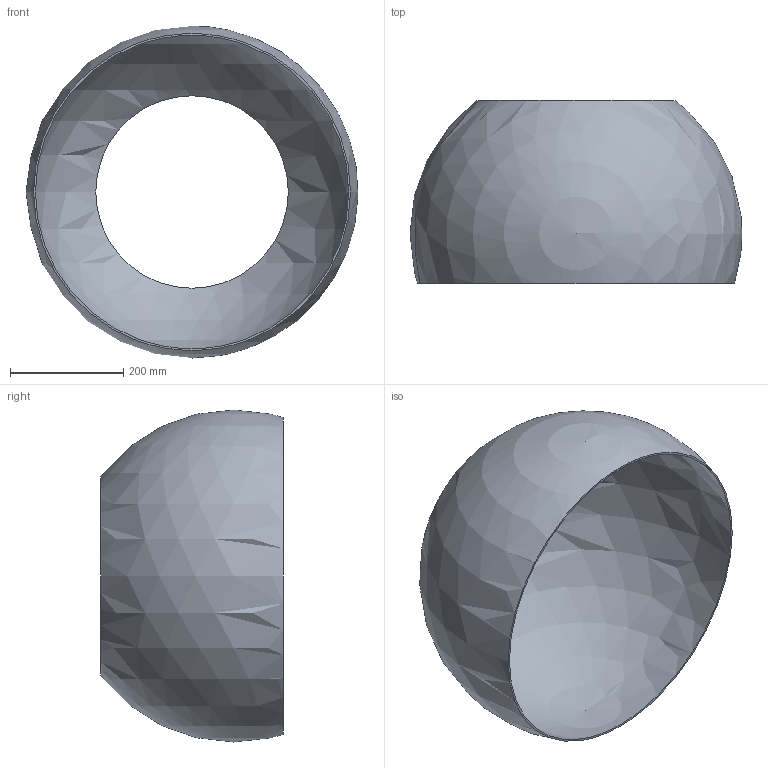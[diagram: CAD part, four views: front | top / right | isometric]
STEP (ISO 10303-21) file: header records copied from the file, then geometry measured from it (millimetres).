
FILE_DESCRIPTION(('Open CASCADE Model'),'2;1');
FILE_NAME('Open CASCADE Shape Model','2026-10-18T22:57:33',('Author'),( 'Open CASCADE'),'Open CASCADE STEP processor 7.9','Open CASCADE 7.9' ,'Unknown');
FILE_SCHEMA(('AUTOMOTIVE_DESIGN { 1 0 10303 214 1 1 1 1 }'));
Length unit declared in the file: millimetre
Products named in the file (1): Open CASCADE STEP translator 7.9 1
Bounding box: 585.9 x 322.5 x 586 mm (x, y, z)
Volume: 1772023.7 mm3; surface area: 1192338.1 mm2
Topology: 1 solids, 1 shells, 4 faces, 10 edges, 8 vertices
Faces by surface type: sphere 2, plane 2
Entity records: 784 total; most frequent: CARTESIAN_POINT 657, DIRECTION 22, FACE_BOUND 10, AXIS2_PLACEMENT_3D 9, EDGE_LOOP 8, ORIENTED_EDGE 8, CIRCLE 8, PCURVE 8
